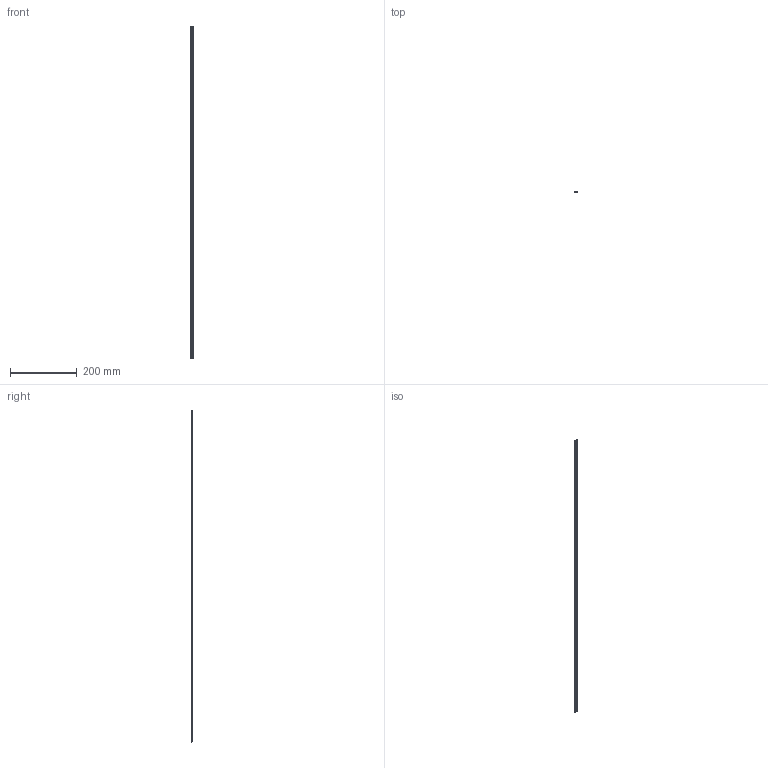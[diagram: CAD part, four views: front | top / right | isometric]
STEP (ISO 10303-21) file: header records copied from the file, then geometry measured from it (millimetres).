
FILE_DESCRIPTION(/* description */ ('Motedis TB-HTD3M-9','CAx-IF Rec.Pracs.---Representation and Presentation of Product Manufacturing Information (PMI)---4.0---2014-10-13'),/* implementation_level */ '2;1');
FILE_NAME(/* name */ 'Motedis TB-HTD3M-9.stp',/* time_stamp */ '2026-03-11T15:07:53+01:00',/* author */ ('Motedis'),/* organization */ ('Motedis GmbH'),/* preprocessor_version */ 'ST-DEVELOPER v20.1',/* originating_system */ 'Autodesk Inventor 2026',/* authorisation */ 'Motedis GmbH');
FILE_SCHEMA (('AP242_MANAGED_MODEL_BASED_3D_ENGINEERING_MIM_LF { 1 0 10303 442 2 1 4 }'));
Products named in the file (1): Motedis TB-HTD3M-9
Bounding box: 9 x 2.4 x 996 mm (x, y, z)
Volume: 15838.1 mm3; surface area: 25728.7 mm2
Topology: 1 solids, 1 shells, 2330 faces, 6984 edges, 4656 vertices
Faces by surface type: cylinder 1328, plane 1002
Entity records: 82008 total; most frequent: DIRECTION 14334, CARTESIAN_POINT 13992, ORIENTED_EDGE 13968, EDGE_CURVE 6984, AXIS2_PLACEMENT_3D 5003, VERTEX_POINT 4656, LINE 4328, VECTOR 4328
